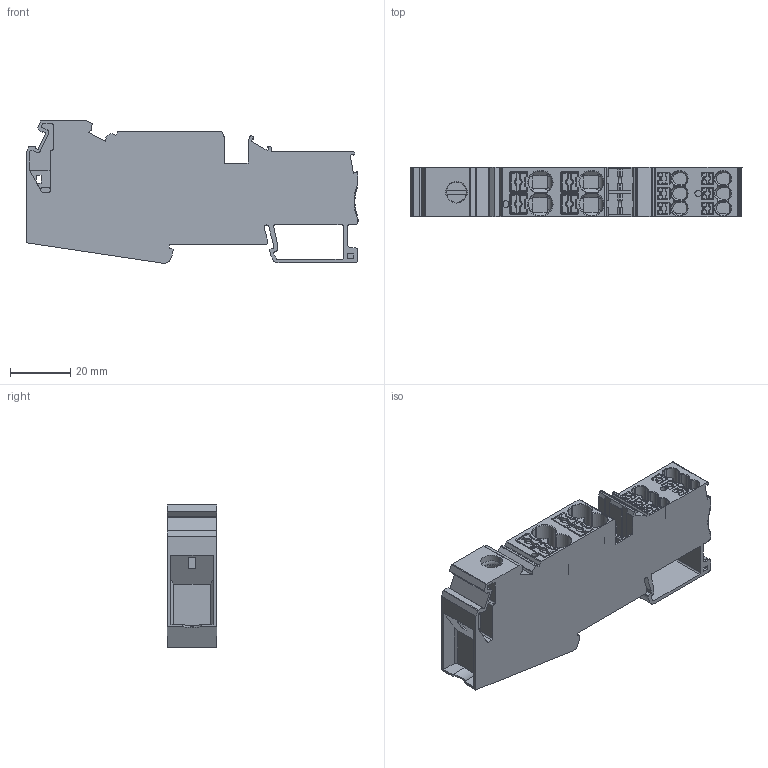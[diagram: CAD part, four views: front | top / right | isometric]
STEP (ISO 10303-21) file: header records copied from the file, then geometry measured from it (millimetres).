
FILE_DESCRIPTION(/* description */ (''),/* implementation_level */ '2;1');
FILE_NAME(/* name */ 'UPTU-35-4X6-6X2.5.stp',/* time_stamp */ '2024-04-26T16:36:38+08:00',/* author */ (''),/* organization */ (''),/* preprocessor_version */ 'ST-DEVELOPER v16.7',/* originating_system */ 'SIEMENS PLM Software NX 12.0',/* authorisation */ '');
FILE_SCHEMA (('AUTOMOTIVE_DESIGN { 1 0 10303 214 3 1 1 1 }'));
Products named in the file (1): Admi0EB4BAB8iygw
Bounding box: 110.36 x 16.3 x 47.46 mm (x, y, z)
Volume: 52925.5 mm3; surface area: 24984.1 mm2
Topology: 1 solids, 7 shells, 2649 faces, 7009 edges, 4120 vertices
Faces by surface type: cylinder 1061, plane 989, sphere 276, torus 161, cone 108, bspline 54
Entity records: 84803 total; most frequent: CARTESIAN_POINT 20281, DIRECTION 13908, ORIENTED_EDGE 13490, EDGE_CURVE 6745, AXIS2_PLACEMENT_3D 5090, VERTEX_POINT 4120, LINE 3728, VECTOR 3728
